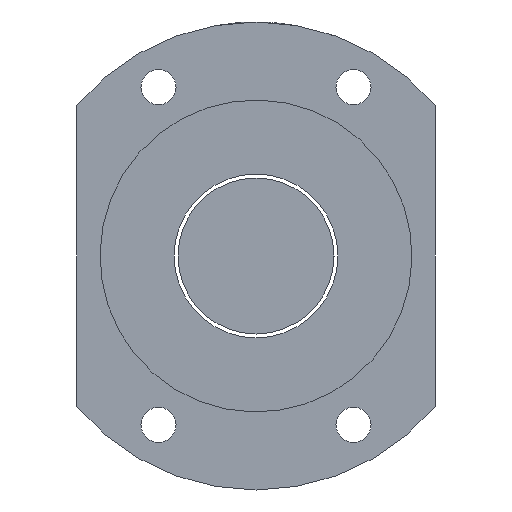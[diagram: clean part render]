
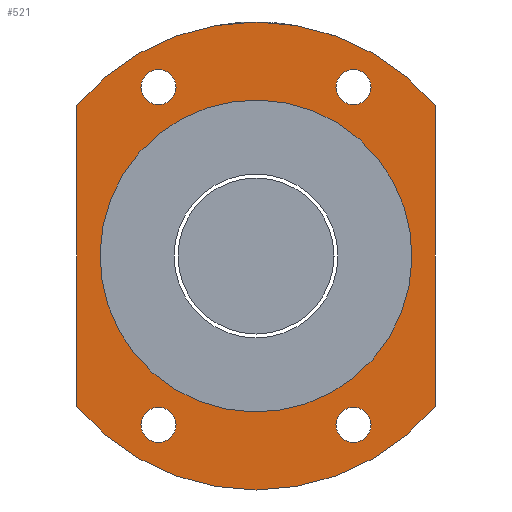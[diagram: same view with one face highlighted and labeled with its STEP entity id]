
A CAD part, left-side view. The second image highlights one B-rep face of the part: STEP entity #521.
In plain terms, the highlighted planar face has unit normal (-1, 0, 0).
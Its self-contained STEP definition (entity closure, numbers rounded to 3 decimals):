
#312=CARTESIAN_POINT('Line Origine',(-10.,-23.,0.)) ;
#316=CARTESIAN_POINT('Vertex',(-10.,-23.,19.261)) ;
#318=CARTESIAN_POINT('Vertex',(-10.,-23.,-19.261)) ;
#347=CARTESIAN_POINT('Vertex',(-10.,23.,-19.261)) ;
#350=CARTESIAN_POINT('Axis2P3D Location',(-10.,0.,0.)) ;
#367=CARTESIAN_POINT('Line Origine',(-10.,23.,0.)) ;
#371=CARTESIAN_POINT('Vertex',(-10.,23.,19.261)) ;
#391=CARTESIAN_POINT('Axis2P3D Location',(-10.,12.5,-21.651)) ;
#395=CARTESIAN_POINT('Vertex',(-10.,14.75,-21.651)) ;
#397=CARTESIAN_POINT('Vertex',(-10.,10.25,-21.651)) ;
#417=CARTESIAN_POINT('Axis2P3D Location',(-10.,12.5,-21.651)) ;
#429=CARTESIAN_POINT('Axis2P3D Location',(-10.,0.,118.885)) ;
#434=CARTESIAN_POINT('Axis2P3D Location',(-10.,0.,0.)) ;
#445=CARTESIAN_POINT('Axis2P3D Location',(-10.,-12.5,-21.651)) ;
#449=CARTESIAN_POINT('Vertex',(-10.,-10.25,-21.651)) ;
#451=CARTESIAN_POINT('Vertex',(-10.,-14.75,-21.651)) ;
#454=CARTESIAN_POINT('Axis2P3D Location',(-10.,-12.5,-21.651)) ;
#467=CARTESIAN_POINT('Axis2P3D Location',(-10.,-12.5,21.651)) ;
#471=CARTESIAN_POINT('Vertex',(-10.,-13.625,19.702)) ;
#473=CARTESIAN_POINT('Vertex',(-10.,-11.375,23.599)) ;
#476=CARTESIAN_POINT('Axis2P3D Location',(-10.,-12.5,21.651)) ;
#485=CARTESIAN_POINT('Axis2P3D Location',(-10.,12.5,21.651)) ;
#489=CARTESIAN_POINT('Vertex',(-10.,10.25,21.651)) ;
#491=CARTESIAN_POINT('Vertex',(-10.,14.75,21.651)) ;
#494=CARTESIAN_POINT('Axis2P3D Location',(-10.,12.5,21.651)) ;
#503=CARTESIAN_POINT('Axis2P3D Location',(-10.,0.,0.)) ;
#507=CARTESIAN_POINT('Vertex',(-10.,9.589,17.552)) ;
#509=CARTESIAN_POINT('Vertex',(-10.,-9.589,-17.552)) ;
#512=CARTESIAN_POINT('Axis2P3D Location',(-10.,0.,0.)) ;
#313=DIRECTION('Vector Direction',(0.,0.,-1.)) ;
#351=DIRECTION('Axis2P3D Direction',(1.,0.,0.)) ;
#368=DIRECTION('Vector Direction',(0.,0.,1.)) ;
#392=DIRECTION('Axis2P3D Direction',(-1.,0.,0.)) ;
#418=DIRECTION('Axis2P3D Direction',(-1.,0.,0.)) ;
#430=DIRECTION('Axis2P3D Direction',(-1.,0.,0.)) ;
#431=DIRECTION('Axis2P3D XDirection',(0.,1.,0.)) ;
#435=DIRECTION('Axis2P3D Direction',(-1.,0.,0.)) ;
#446=DIRECTION('Axis2P3D Direction',(-1.,0.,0.)) ;
#455=DIRECTION('Axis2P3D Direction',(-1.,0.,0.)) ;
#468=DIRECTION('Axis2P3D Direction',(-1.,0.,0.)) ;
#477=DIRECTION('Axis2P3D Direction',(-1.,0.,0.)) ;
#486=DIRECTION('Axis2P3D Direction',(-1.,0.,0.)) ;
#495=DIRECTION('Axis2P3D Direction',(-1.,0.,0.)) ;
#504=DIRECTION('Axis2P3D Direction',(-1.,0.,0.)) ;
#513=DIRECTION('Axis2P3D Direction',(-1.,0.,0.)) ;
#352=AXIS2_PLACEMENT_3D('Circle Axis2P3D',#350,#351,$) ;
#393=AXIS2_PLACEMENT_3D('Circle Axis2P3D',#391,#392,$) ;
#419=AXIS2_PLACEMENT_3D('Circle Axis2P3D',#417,#418,$) ;
#432=AXIS2_PLACEMENT_3D('Plane Axis2P3D',#429,#430,#431) ;
#436=AXIS2_PLACEMENT_3D('Circle Axis2P3D',#434,#435,$) ;
#447=AXIS2_PLACEMENT_3D('Circle Axis2P3D',#445,#446,$) ;
#456=AXIS2_PLACEMENT_3D('Circle Axis2P3D',#454,#455,$) ;
#469=AXIS2_PLACEMENT_3D('Circle Axis2P3D',#467,#468,$) ;
#478=AXIS2_PLACEMENT_3D('Circle Axis2P3D',#476,#477,$) ;
#487=AXIS2_PLACEMENT_3D('Circle Axis2P3D',#485,#486,$) ;
#496=AXIS2_PLACEMENT_3D('Circle Axis2P3D',#494,#495,$) ;
#505=AXIS2_PLACEMENT_3D('Circle Axis2P3D',#503,#504,$) ;
#514=AXIS2_PLACEMENT_3D('Circle Axis2P3D',#512,#513,$) ;
#440=ORIENTED_EDGE('',*,*,#438,.T.) ;
#441=ORIENTED_EDGE('',*,*,#373,.F.) ;
#442=ORIENTED_EDGE('',*,*,#354,.T.) ;
#443=ORIENTED_EDGE('',*,*,#320,.F.) ;
#460=ORIENTED_EDGE('',*,*,#453,.F.) ;
#461=ORIENTED_EDGE('',*,*,#458,.F.) ;
#464=ORIENTED_EDGE('',*,*,#399,.F.) ;
#465=ORIENTED_EDGE('',*,*,#421,.F.) ;
#482=ORIENTED_EDGE('',*,*,#475,.F.) ;
#483=ORIENTED_EDGE('',*,*,#480,.F.) ;
#500=ORIENTED_EDGE('',*,*,#493,.F.) ;
#501=ORIENTED_EDGE('',*,*,#498,.F.) ;
#518=ORIENTED_EDGE('',*,*,#511,.F.) ;
#519=ORIENTED_EDGE('',*,*,#516,.F.) ;
#462=FACE_BOUND('',#459,.T.) ;
#466=FACE_BOUND('',#463,.T.) ;
#484=FACE_BOUND('',#481,.T.) ;
#502=FACE_BOUND('',#499,.T.) ;
#520=FACE_BOUND('',#517,.T.) ;
#314=VECTOR('Line Direction',#313,1.) ;
#369=VECTOR('Line Direction',#368,1.) ;
#521=ADVANCED_FACE('NUT',(#444,#462,#466,#484,#502,#520),#433,.T.) ;
#353=CIRCLE('generated circle',#352,30.) ;
#394=CIRCLE('generated circle',#393,2.25) ;
#420=CIRCLE('generated circle',#419,2.25) ;
#437=CIRCLE('generated circle',#436,30.) ;
#448=CIRCLE('generated circle',#447,2.25) ;
#457=CIRCLE('generated circle',#456,2.25) ;
#470=CIRCLE('generated circle',#469,2.25) ;
#479=CIRCLE('generated circle',#478,2.25) ;
#488=CIRCLE('generated circle',#487,2.25) ;
#497=CIRCLE('generated circle',#496,2.25) ;
#506=CIRCLE('generated circle',#505,20.) ;
#515=CIRCLE('generated circle',#514,20.) ;
#320=EDGE_CURVE('',#317,#319,#315,.T.) ;
#354=EDGE_CURVE('',#348,#319,#353,.F.) ;
#373=EDGE_CURVE('',#348,#372,#370,.T.) ;
#399=EDGE_CURVE('',#396,#398,#394,.T.) ;
#421=EDGE_CURVE('',#398,#396,#420,.T.) ;
#438=EDGE_CURVE('',#317,#372,#437,.T.) ;
#453=EDGE_CURVE('',#450,#452,#448,.T.) ;
#458=EDGE_CURVE('',#452,#450,#457,.T.) ;
#475=EDGE_CURVE('',#472,#474,#470,.T.) ;
#480=EDGE_CURVE('',#474,#472,#479,.T.) ;
#493=EDGE_CURVE('',#490,#492,#488,.T.) ;
#498=EDGE_CURVE('',#492,#490,#497,.T.) ;
#511=EDGE_CURVE('',#508,#510,#506,.T.) ;
#516=EDGE_CURVE('',#510,#508,#515,.T.) ;
#439=EDGE_LOOP('',(#440,#441,#442,#443)) ;
#459=EDGE_LOOP('',(#460,#461)) ;
#463=EDGE_LOOP('',(#464,#465)) ;
#481=EDGE_LOOP('',(#482,#483)) ;
#499=EDGE_LOOP('',(#500,#501)) ;
#517=EDGE_LOOP('',(#518,#519)) ;
#444=FACE_OUTER_BOUND('',#439,.T.) ;
#315=LINE('Line',#312,#314) ;
#370=LINE('Line',#367,#369) ;
#433=PLANE('',#432) ;
#317=VERTEX_POINT('',#316) ;
#319=VERTEX_POINT('',#318) ;
#348=VERTEX_POINT('',#347) ;
#372=VERTEX_POINT('',#371) ;
#396=VERTEX_POINT('',#395) ;
#398=VERTEX_POINT('',#397) ;
#450=VERTEX_POINT('',#449) ;
#452=VERTEX_POINT('',#451) ;
#472=VERTEX_POINT('',#471) ;
#474=VERTEX_POINT('',#473) ;
#490=VERTEX_POINT('',#489) ;
#492=VERTEX_POINT('',#491) ;
#508=VERTEX_POINT('',#507) ;
#510=VERTEX_POINT('',#509) ;
